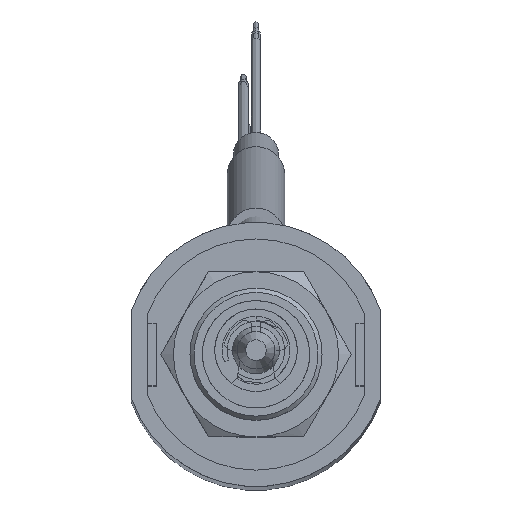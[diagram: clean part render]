
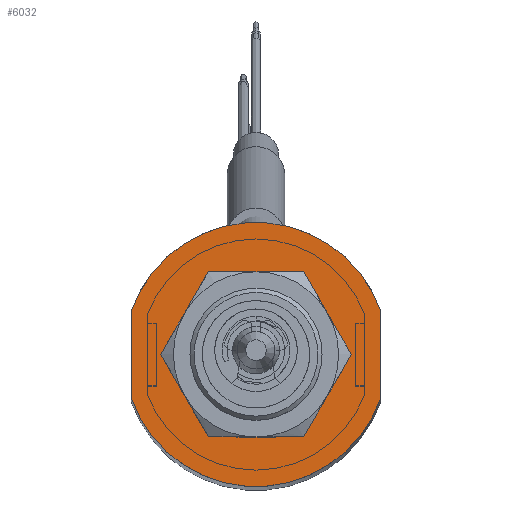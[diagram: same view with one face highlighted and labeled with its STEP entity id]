
A CAD part, top view. The second image highlights one B-rep face of the part: STEP entity #6032.
In plain terms, the highlighted planar face has unit normal (0, 0, 1).
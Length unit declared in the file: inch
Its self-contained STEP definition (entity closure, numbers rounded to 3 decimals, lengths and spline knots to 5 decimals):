
#351=FACE_BOUND('',#1044,.T.);
#445=PLANE('',#6757);
#665=FACE_OUTER_BOUND('',#1043,.T.);
#1043=EDGE_LOOP('',(#4361,#4362,#4363,#4364));
#1044=EDGE_LOOP('',(#4365,#4366));
#1430=LINE('',#9590,#1788);
#1433=LINE('',#9597,#1791);
#1788=VECTOR('',#7864,0.3937);
#1791=VECTOR('',#7873,0.3937);
#2130=CIRCLE('',#6745,0.17717);
#2131=CIRCLE('',#6746,0.17717);
#2135=CIRCLE('',#6752,0.31496);
#2136=CIRCLE('',#6755,0.31496);
#2541=VERTEX_POINT('',#9566);
#2542=VERTEX_POINT('',#9567);
#2548=VERTEX_POINT('',#9583);
#2549=VERTEX_POINT('',#9585);
#2550=VERTEX_POINT('',#9589);
#2551=VERTEX_POINT('',#9593);
#3208=EDGE_CURVE('',#2541,#2542,#2130,.T.);
#3209=EDGE_CURVE('',#2542,#2541,#2131,.T.);
#3217=EDGE_CURVE('',#2549,#2548,#2135,.T.);
#3219=EDGE_CURVE('',#2550,#2549,#1430,.T.);
#3221=EDGE_CURVE('',#2551,#2550,#2136,.T.);
#3223=EDGE_CURVE('',#2548,#2551,#1433,.T.);
#4361=ORIENTED_EDGE('',*,*,#3223,.T.);
#4362=ORIENTED_EDGE('',*,*,#3221,.T.);
#4363=ORIENTED_EDGE('',*,*,#3219,.T.);
#4364=ORIENTED_EDGE('',*,*,#3217,.T.);
#4365=ORIENTED_EDGE('',*,*,#3208,.T.);
#4366=ORIENTED_EDGE('',*,*,#3209,.T.);
#6032=ADVANCED_FACE('',(#665,#351),#445,.T.);
#6745=AXIS2_PLACEMENT_3D('',#9568,#7841,#7842);
#6746=AXIS2_PLACEMENT_3D('',#9569,#7843,#7844);
#6752=AXIS2_PLACEMENT_3D('',#9586,#7859,#7860);
#6755=AXIS2_PLACEMENT_3D('',#9594,#7868,#7869);
#6757=AXIS2_PLACEMENT_3D('',#9598,#7874,#7875);
#7841=DIRECTION('center_axis',(0.,0.,
-1.));
#7842=DIRECTION('ref_axis',(1.,0.,0.));
#7843=DIRECTION('center_axis',(0.,0.,
-1.));
#7844=DIRECTION('ref_axis',(1.,0.,0.));
#7859=DIRECTION('center_axis',(0.,0.,
1.));
#7860=DIRECTION('ref_axis',(-0.944,-0.331,0.));
#7864=DIRECTION('',(0.,-1.,0.));
#7868=DIRECTION('center_axis',(0.,0.,
1.));
#7869=DIRECTION('ref_axis',(0.944,0.331,0.));
#7873=DIRECTION('',(0.,1.,0.));
#7874=DIRECTION('center_axis',(0.,0.,
1.));
#7875=DIRECTION('ref_axis',(1.,0.,0.));
#9566=CARTESIAN_POINT('',(0.17717,0.,2.6378));
#9567=CARTESIAN_POINT('',(-0.17717,0.,2.6378));
#9568=CARTESIAN_POINT('Origin',(0.,0.,
2.6378));
#9569=CARTESIAN_POINT('Origin',(0.,0.,
2.6378));
#9583=CARTESIAN_POINT('',(0.29724,-0.10414,2.6378));
#9585=CARTESIAN_POINT('',(-0.29724,-0.10414,2.6378));
#9586=CARTESIAN_POINT('Origin',(0.,0.,
2.6378));
#9589=CARTESIAN_POINT('',(-0.29724,0.10414,2.6378));
#9590=CARTESIAN_POINT('',(-0.29724,0.10414,2.6378));
#9593=CARTESIAN_POINT('',(0.29724,0.10414,2.6378));
#9594=CARTESIAN_POINT('Origin',(0.,0.,
2.6378));
#9597=CARTESIAN_POINT('',(0.29724,-0.10414,2.6378));
#9598=CARTESIAN_POINT('Origin',(0.,0.,
2.6378));
